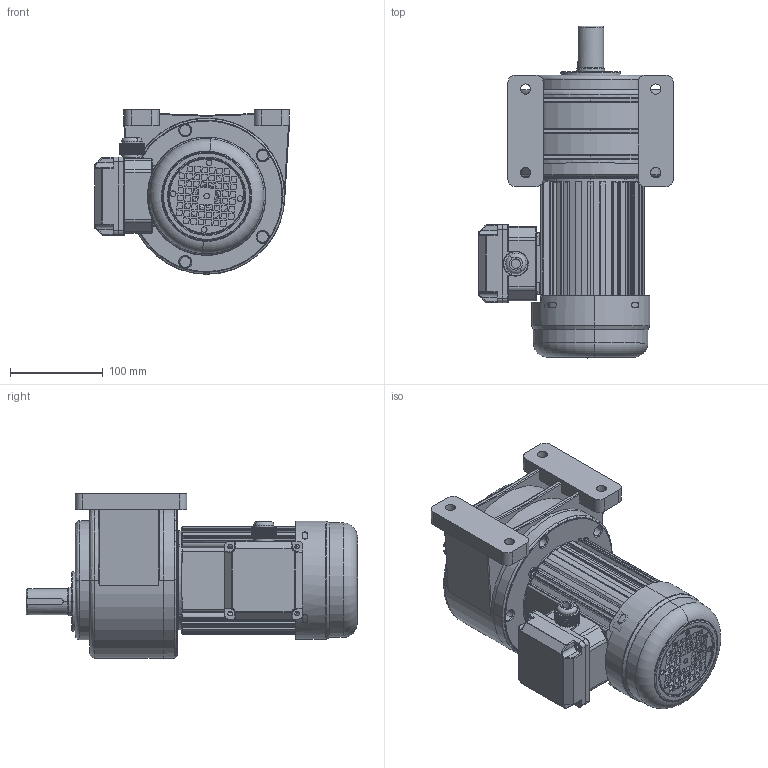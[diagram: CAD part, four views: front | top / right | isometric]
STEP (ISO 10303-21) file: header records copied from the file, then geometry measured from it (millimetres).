
FILE_DESCRIPTION (( 'STEP AP203' ), '1' );
FILE_NAME ('200W饜3#湍价陬拏宒.STEP', '2020-04-17T03:35:51', ( '' ), ( '' ), 'SwSTEP 2.0', 'SolidWorks 2019', '' );
FILE_SCHEMA (( 'CONFIG_CONTROL_DESIGN' ));
Length unit declared in the file: millimetre
Products named in the file (7): 200W饜3#湍价陬拏宒; 100W棠憤迖殤; 200W饜3#拏宒; 蜊輛綴諉盄碟釱3; 湍价陬諉盄碟裔; 100W价陬瑞欶; 諉芛
Assembly tree (6 placements, depth 2):
  200W饜3#湍价陬拏宒
    200W饜3#拏宒
    100W棠憤迖殤
    100W价陬瑞欶
    蜊輛綴諉盄碟釱3
    諉芛
    湍价陬諉盄碟裔
Bounding box: 209.5 x 357 x 177 mm (x, y, z)
Volume: 2940068.4 mm3; surface area: 557685.1 mm2
Topology: 8 solids, 12 shells, 2176 faces, 5602 edges, 3510 vertices
Faces by surface type: cylinder 725, plane 717, bspline 359, torus 205, cone 158, sphere 12
Entity records: 91493 total; most frequent: CARTESIAN_POINT 40476, ORIENTED_EDGE 11178, DIRECTION 9638, EDGE_CURVE 5589, AXIS2_PLACEMENT_3D 3558, VERTEX_POINT 3510, VECTOR 2522, LINE 2522
